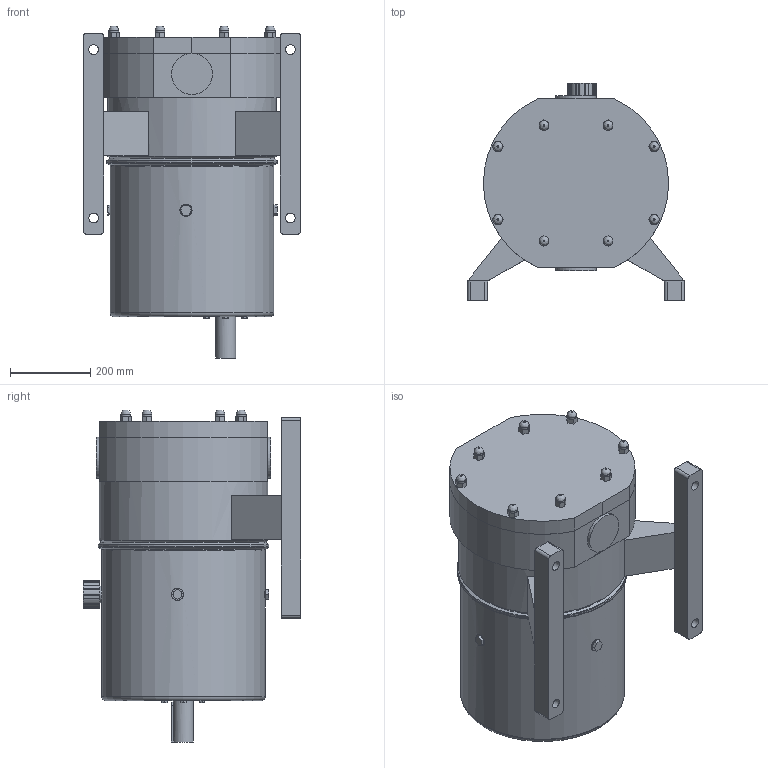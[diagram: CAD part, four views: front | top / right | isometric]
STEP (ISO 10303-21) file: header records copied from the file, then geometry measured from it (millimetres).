
FILE_DESCRIPTION((''),'2;1');
FILE_NAME('T:\_Engineering\Read Only\Studenci\Maciej\DW pumps\STEP\DW6_308_15_shaft_right.stp','2013-06-10T12:18:07',('pszymczyk'),(''),'Autodesk Inventor 2012','Autodesk Inventor 2012','');
FILE_SCHEMA(('CONFIG_CONTROL_DESIGN'));
Length unit declared in the file: millimetre
Products named in the file (1): DW_iparts
Bounding box: 540.6 x 543.3 x 827.8 mm (x, y, z)
Volume: 52832143.5 mm3; surface area: 2436892.9 mm2
Topology: 1 solids, 3 shells, 320 faces, 760 edges, 469 vertices
Faces by surface type: plane 246, cylinder 51, bspline 12, cone 7, torus 4
Full cylindrical faces by diameter (mm): 24 x12, 30 x4, 42 x1, 50 x1, 90 x1, 102.5 x2, 110 x1, 405.6 x2, 408.6 x2, 420 x2, 426 x1
Entity records: 9442 total; most frequent: CARTESIAN_POINT 2096, DIRECTION 1483, ORIENTED_EDGE 1420, EDGE_CURVE 710, VECTOR 537, LINE 537, AXIS2_PLACEMENT_3D 473, VERTEX_POINT 460
